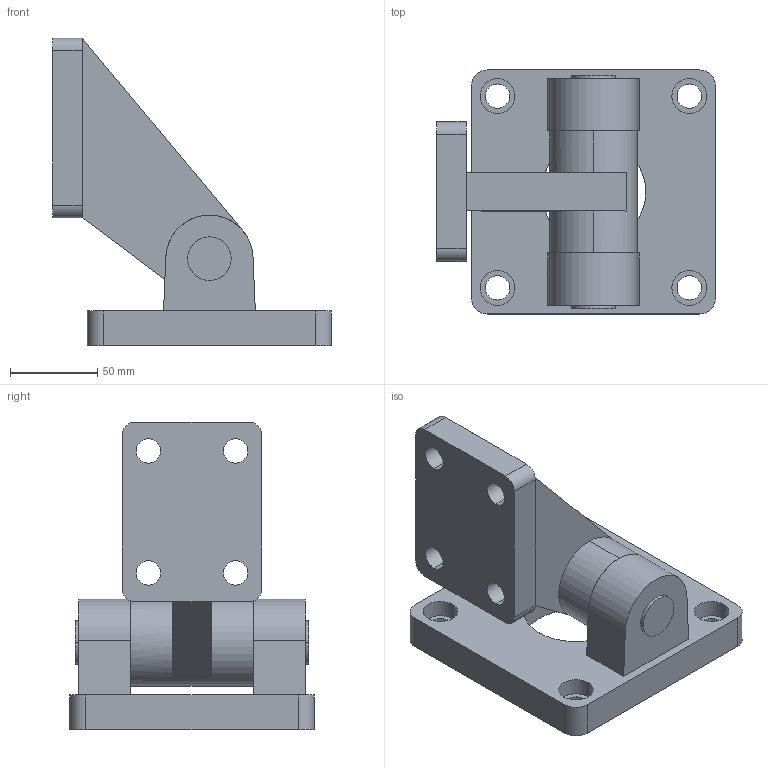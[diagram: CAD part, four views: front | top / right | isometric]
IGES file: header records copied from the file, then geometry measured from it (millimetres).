
Global section: file name: No Iges File Name specified; native system: AutoDesk Inventor R11.0; preprocessor: AutoDesk Inventor Iges Exporter R11.0; author: No Author specified; organization: No Organization specified; date: 20060712.122340; units: millimetre
Bounding box: 160 x 140 x 176.5 mm (x, y, z)
Volume: 853976.8 mm3; surface area: 126239.5 mm2
Topology: 2 solids, 2 shells, 79 faces, 199 edges, 132 vertices
Faces by surface type: bspline 32, plane 29, cylinder 18
